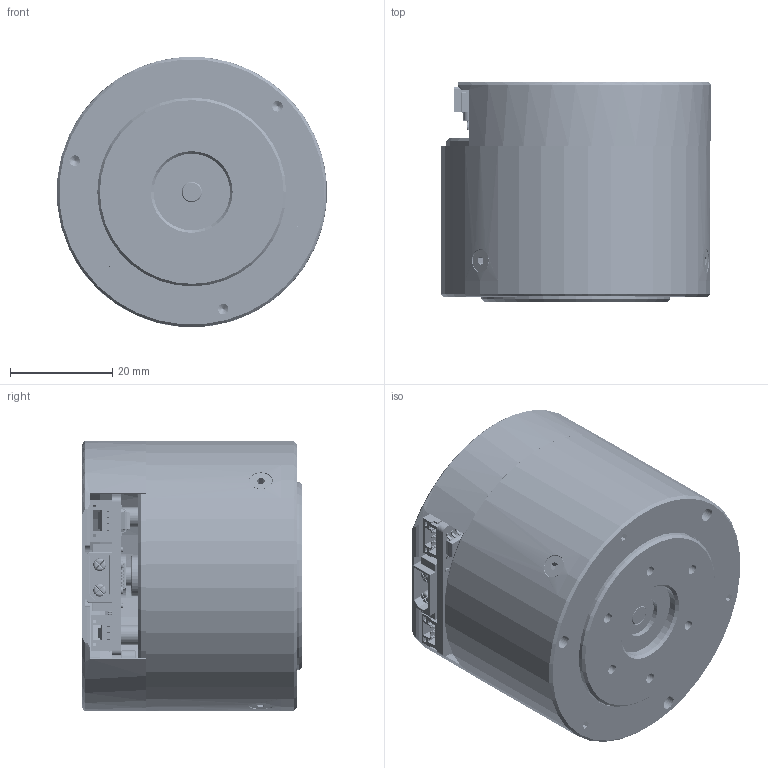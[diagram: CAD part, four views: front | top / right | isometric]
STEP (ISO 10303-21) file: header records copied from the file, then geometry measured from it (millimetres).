
FILE_DESCRIPTION (( 'STEP AP214' ), '1' );
FILE_NAME ('AK45-10 KV75.STEP', '2025-02-28T02:11:21', ( '' ), ( '' ), 'SwSTEP 2.0', 'SolidWorks 2020', '' );
FILE_SCHEMA (( 'AUTOMOTIVE_DESIGN' ));
Length unit declared in the file: millimetre
Products named in the file (31): C0203000730-坋趼晦す芛蹟佪(M2.5X3); BJJ02040261-4305-10諷秶欶; C0103000453-覜茼棠沺; C0105000053-EZO-694-ZZ粣創; BJJ02030689-AK45-10钢圈; AK45-10 KV75; BJJ02040260-4305-10裔啣; AK40-8驱动板; C0104000171-T002-4310铁芯 24槽50片; BJJ02040263-4305-10狟俴陎殤; C0203000732-沉头十字螺丝(M2.5×14); C0103000243-N42UH傲蠢說倛棠沺-S撰; C0205000656-滚针(PZ4X9.8mm-人本); C0203000736-沉头十字螺丝(M2.5×3); AK45-10萇儂蛌赽; C0203000739-M2.5×5沉头内六角螺钉; C0105000044-NMB-MR148-ZZ粣創; BJJ02080029-AK45-10俴陎謫; BJJ01040175-AK45-10棠晤釱; BJJ01040172-4305-10奻俴陎殤; BJJ02080030-AK45-10內齿圈; C0205000410-窪伎坒蘋攝韓菜え(8-4-0.3); C0203000498-M2.5×8沉头内六角螺钉; C0103000242-N42UH傲蠢說倛棠沺-N; AK45-10萇儂隅赽; BJJ01040174-AK45-10前盖; AK45-10萇儂俴陎殤; 萇儂結啣; C0105000031-弊莉-6707-ZZ粣創(44-35-5); BJJ02080028-AK45-10怮栠謫; BJJ02040264-AK45-10俋褲
Assembly tree (77 placements, depth 3):
  AK45-10 KV75
    AK45-10萇儂蛌赽
      BJJ01040174-AK45-10前盖
      BJJ02030689-AK45-10钢圈
      C0103000242-N42UH傲蠢說倛棠沺-N  x14
      C0103000243-N42UH傲蠢說倛棠沺-S撰  x14
      BJJ02080028-AK45-10怮栠謫
    AK45-10萇儂隅赽
      C0105000044-NMB-MR148-ZZ粣創
      C0104000171-T002-4310铁芯 24槽50片
      BJJ02040264-AK45-10俋褲
      C0203000730-坋趼晦す芛蹟佪(M2.5X3)  x4
    AK45-10萇儂俴陎殤
      BJJ01040172-4305-10奻俴陎殤
      C0105000031-弊莉-6707-ZZ粣創(44-35-5)
      BJJ02040263-4305-10狟俴陎殤
      C0205000656-滚针(PZ4X9.8mm-人本)  x3
      C0203000498-M2.5×8沉头内六角螺钉  x3
      BJJ02080029-AK45-10俴陎謫  x3
      C0205000410-窪伎坒蘋攝韓菜え(8-4-0.3)  x6
      C0105000053-EZO-694-ZZ粣創
    萇儂結啣
    BJJ02080030-AK45-10內齿圈
    BJJ02040260-4305-10裔啣
    BJJ02040261-4305-10諷秶欶
    AK40-8驱动板
    BJJ01040175-AK45-10棠晤釱
    C0103000453-覜茼棠沺
    C0203000732-沉头十字螺丝(M2.5×14)  x4
    C0203000739-M2.5×5沉头内六角螺钉  x3
    C0203000736-沉头十字螺丝(M2.5×3)  x3
Bounding box: 52.9 x 43 x 53 mm (x, y, z)
Volume: 56216.1 mm3; surface area: 73574.3 mm2
Topology: 212 solids, 212 shells, 8657 faces, 21385 edges, 12623 vertices
Faces by surface type: cylinder 3579, plane 2705, bspline 1761, torus 258, cone 190, sphere 164
Entity records: 590233 total; most frequent: CARTESIAN_POINT 347225, ORIENTED_EDGE 37602, DIRECTION 36690, EDGE_CURVE 18801, AXIS2_PLACEMENT_3D 13711, VERTEX_POINT 11351, LINE 9268, VECTOR 9268
